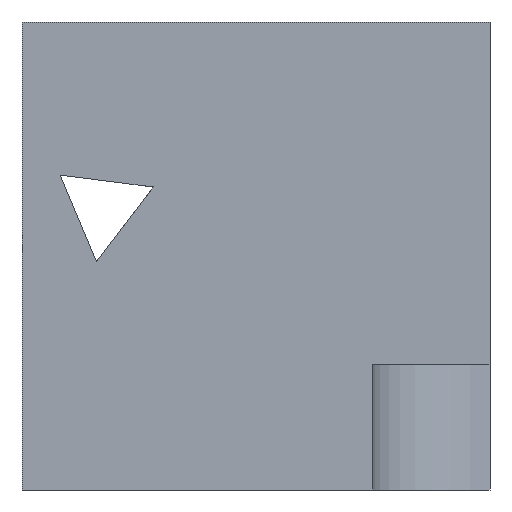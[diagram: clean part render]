
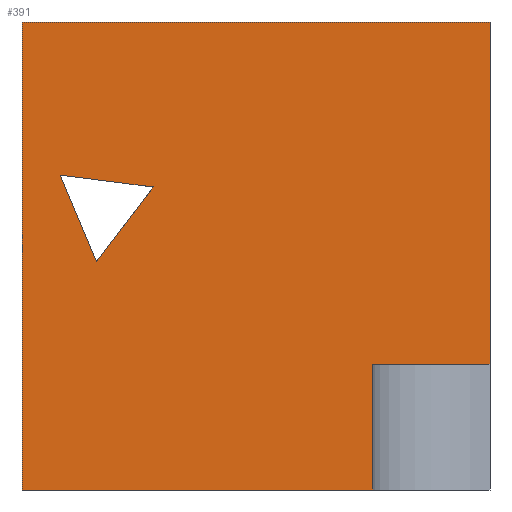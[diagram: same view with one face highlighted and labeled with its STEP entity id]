
A CAD part, left-side view. The second image highlights one B-rep face of the part: STEP entity #391.
In plain terms, the highlighted planar face has unit normal (-1, 0, 0).
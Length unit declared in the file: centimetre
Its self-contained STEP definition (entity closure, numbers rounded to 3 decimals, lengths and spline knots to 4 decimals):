
#12 = CARTESIAN_POINT ( 'NONE',  ( 0., 1000., 1000. ) ) ;
#21 = LINE ( 'NONE', #353, #186 ) ;
#23 = ORIENTED_EDGE ( 'NONE', *, *, #603, .T. ) ;
#29 = VECTOR ( 'NONE', #776, 100. ) ;
#43 = CARTESIAN_POINT ( 'NONE',  ( 0., 1000., 1000. ) ) ;
#52 = VECTOR ( 'NONE', #925, 100. ) ;
#73 = CARTESIAN_POINT ( 'NONE',  ( 0., 1000., 268.8187 ) ) ;
#81 = CARTESIAN_POINT ( 'NONE',  ( 0., 918.2892, 672.8539 ) ) ;
#101 = EDGE_LOOP ( 'NONE', ( #871, #856, #488 ) ) ;
#113 = DIRECTION ( 'NONE',  ( 0., -1., 0. ) ) ;
#134 = ORIENTED_EDGE ( 'NONE', *, *, #1008, .T. ) ;
#137 = VECTOR ( 'NONE', #344, 100. ) ;
#177 = ORIENTED_EDGE ( 'NONE', *, *, #768, .F. ) ;
#186 = VECTOR ( 'NONE', #644, 100. ) ;
#228 = VERTEX_POINT ( 'NONE', #267 ) ;
#238 = VERTEX_POINT ( 'NONE', #440 ) ;
#267 = CARTESIAN_POINT ( 'NONE',  ( 0., 719.686, 647.4667 ) ) ;
#289 = CARTESIAN_POINT ( 'NONE',  ( 0., 250.0424, 268.8187 ) ) ;
#299 = CARTESIAN_POINT ( 'NONE',  ( 0., 1000., 1000. ) ) ;
#319 = CARTESIAN_POINT ( 'NONE',  ( 0., 840.9736, 488.1649 ) ) ;
#328 = CARTESIAN_POINT ( 'NONE',  ( 0., 250.0424, 0. ) ) ;
#337 = EDGE_CURVE ( 'NONE', #886, #907, #1009, .T. ) ;
#344 = DIRECTION ( 'NONE',  ( 0., 0., -1. ) ) ;
#353 = CARTESIAN_POINT ( 'NONE',  ( 0., 719.686, 647.4667 ) ) ;
#384 = DIRECTION ( 'NONE',  ( 0., 0., 1. ) ) ;
#388 = PLANE ( 'NONE',  #751 ) ;
#391 = ADVANCED_FACE ( 'NONE', ( #855, #546 ), #388, .F. ) ;
#393 = LINE ( 'NONE', #457, #52 ) ;
#395 = VERTEX_POINT ( 'NONE', #452 ) ;
#403 = VECTOR ( 'NONE', #685, 100. ) ;
#406 = VECTOR ( 'NONE', #909, 100. ) ;
#415 = EDGE_CURVE ( 'NONE', #687, #907, #684, .T. ) ;
#440 = CARTESIAN_POINT ( 'NONE',  ( 0., 0., 1000. ) ) ;
#441 = EDGE_CURVE ( 'NONE', #228, #1007, #679, .T. ) ;
#452 = CARTESIAN_POINT ( 'NONE',  ( 0., 1000., 0. ) ) ;
#457 = CARTESIAN_POINT ( 'NONE',  ( 0., 1000., 0. ) ) ;
#470 = DIRECTION ( 'NONE',  ( 0., 0., -1. ) ) ;
#474 = EDGE_CURVE ( 'NONE', #502, #228, #21, .T. ) ;
#488 = ORIENTED_EDGE ( 'NONE', *, *, #981, .T. ) ;
#494 = ORIENTED_EDGE ( 'NONE', *, *, #415, .T. ) ;
#502 = VERTEX_POINT ( 'NONE', #81 ) ;
#546 = FACE_OUTER_BOUND ( 'NONE', #583, .T. ) ;
#579 = VECTOR ( 'NONE', #384, 100. ) ;
#583 = EDGE_LOOP ( 'NONE', ( #134, #494, #902, #177, #974, #23 ) ) ;
#599 = CARTESIAN_POINT ( 'NONE',  ( 0., 0., 1000. ) ) ;
#603 = EDGE_CURVE ( 'NONE', #765, #395, #835, .T. ) ;
#644 = DIRECTION ( 'NONE',  ( 0., -0.992, -0.127 ) ) ;
#677 = LINE ( 'NONE', #599, #406 ) ;
#679 = LINE ( 'NONE', #319, #29 ) ;
#680 = CARTESIAN_POINT ( 'NONE',  ( 0., 918.2892, 672.8539 ) ) ;
#684 = LINE ( 'NONE', #1005, #579 ) ;
#685 = DIRECTION ( 'NONE',  ( 0., 0.386, 0.922 ) ) ;
#687 = VERTEX_POINT ( 'NONE', #328 ) ;
#717 = CARTESIAN_POINT ( 'NONE',  ( 0., 0., 268.8187 ) ) ;
#751 = AXIS2_PLACEMENT_3D ( 'NONE', #838, #829, #470 ) ;
#752 = DIRECTION ( 'NONE',  ( 0., 1., 0. ) ) ;
#765 = VERTEX_POINT ( 'NONE', #299 ) ;
#768 = EDGE_CURVE ( 'NONE', #238, #886, #677, .T. ) ;
#776 = DIRECTION ( 'NONE',  ( 0., 0.606, -0.796 ) ) ;
#827 = VECTOR ( 'NONE', #113, 100. ) ;
#829 = DIRECTION ( 'NONE',  ( 1., 0., 0. ) ) ;
#835 = LINE ( 'NONE', #12, #137 ) ;
#838 = CARTESIAN_POINT ( 'NONE',  ( 0., 1000., 1000. ) ) ;
#844 = EDGE_CURVE ( 'NONE', #765, #238, #975, .T. ) ;
#855 = FACE_BOUND ( 'NONE', #101, .T. ) ;
#856 = ORIENTED_EDGE ( 'NONE', *, *, #441, .T. ) ;
#860 = VECTOR ( 'NONE', #752, 100. ) ;
#871 = ORIENTED_EDGE ( 'NONE', *, *, #474, .T. ) ;
#886 = VERTEX_POINT ( 'NONE', #717 ) ;
#902 = ORIENTED_EDGE ( 'NONE', *, *, #337, .F. ) ;
#905 = LINE ( 'NONE', #680, #403 ) ;
#907 = VERTEX_POINT ( 'NONE', #289 ) ;
#909 = DIRECTION ( 'NONE',  ( 0., 0., -1. ) ) ;
#925 = DIRECTION ( 'NONE',  ( 0., -1., 0. ) ) ;
#974 = ORIENTED_EDGE ( 'NONE', *, *, #844, .F. ) ;
#975 = LINE ( 'NONE', #43, #827 ) ;
#981 = EDGE_CURVE ( 'NONE', #1007, #502, #905, .T. ) ;
#1002 = CARTESIAN_POINT ( 'NONE',  ( 0., 840.9736, 488.1649 ) ) ;
#1005 = CARTESIAN_POINT ( 'NONE',  ( 0., 250.0424, 268.8187 ) ) ;
#1007 = VERTEX_POINT ( 'NONE', #1002 ) ;
#1008 = EDGE_CURVE ( 'NONE', #395, #687, #393, .T. ) ;
#1009 = LINE ( 'NONE', #73, #860 ) ;
